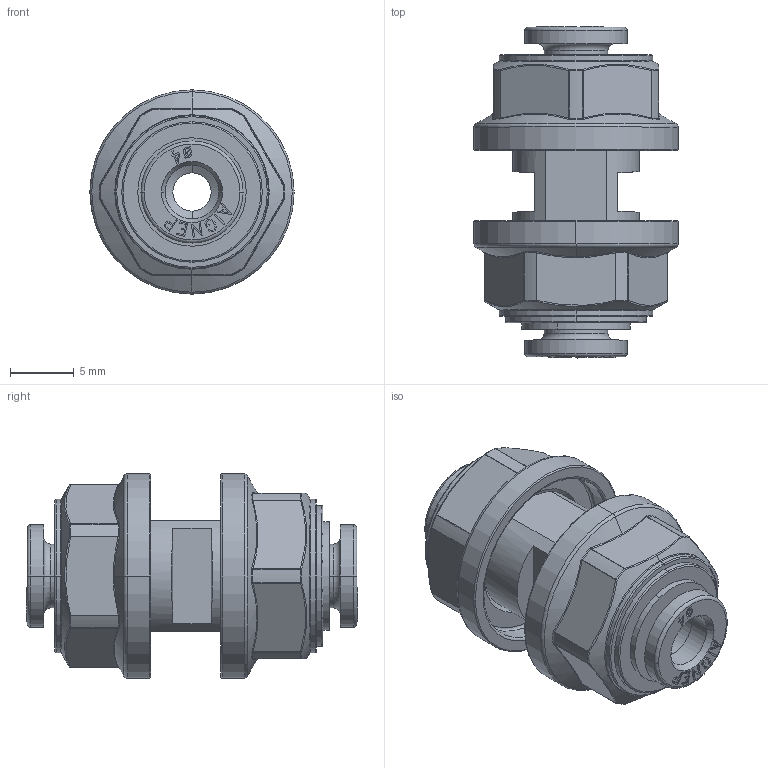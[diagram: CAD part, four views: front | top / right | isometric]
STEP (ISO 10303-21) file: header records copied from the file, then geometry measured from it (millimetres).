
FILE_DESCRIPTION (( 'STEP AP214' ), '1' );
FILE_NAME ('5405000001A.STEP', '2024-09-18T12:04:35', ( '' ), ( '' ), 'SwSTEP 2.0', 'SolidWorks 2020', '' );
FILE_SCHEMA (( 'AUTOMOTIVE_DESIGN' ));
Length unit declared in the file: millimetre
Products named in the file (1): 5405000001A
Bounding box: 16 x 26 x 16 mm (x, y, z)
Volume: 2324.8 mm3; surface area: 2555.8 mm2
Topology: 1 solids, 1 shells, 678 faces, 1735 edges, 1094 vertices
Faces by surface type: plane 307, bspline 172, cylinder 87, torus 58, cone 30, sphere 24
Entity records: 30710 total; most frequent: CARTESIAN_POINT 7856, ORIENTED_EDGE 3470, DIRECTION 2737, EDGE_CURVE 1735, VERTEX_POINT 1094, LINE 1003, VECTOR 1003, AXIS2_PLACEMENT_3D 867
